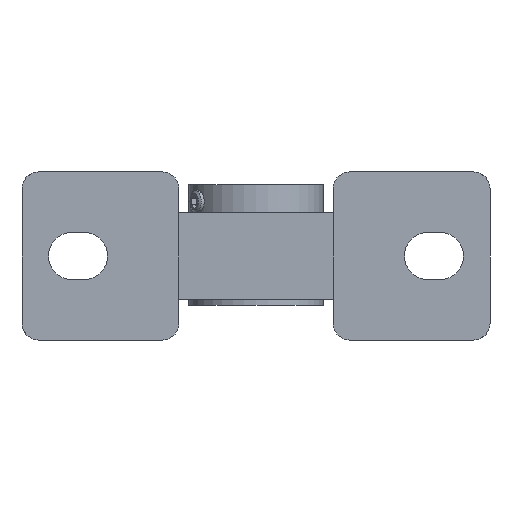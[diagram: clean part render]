
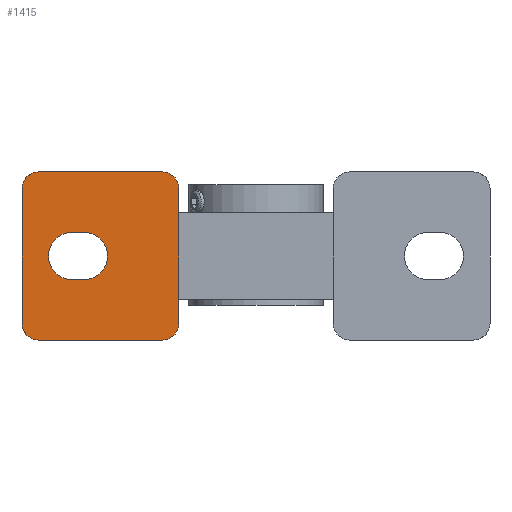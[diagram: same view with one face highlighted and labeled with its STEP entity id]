
A CAD part, front view. The second image highlights one B-rep face of the part: STEP entity #1415.
In plain terms, the highlighted planar face has unit normal (0, -1, 0).
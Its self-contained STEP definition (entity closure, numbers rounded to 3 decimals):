
#179=CARTESIAN_POINT('',(8.855,-56.095,-30.0));
#180=VERTEX_POINT('',#179);
#187=CARTESIAN_POINT('',(-35.145,-56.095,-30.0));
#188=VERTEX_POINT('',#187);
#189=CARTESIAN_POINT('',(8.855,-56.095,-30.0));
#190=DIRECTION('',(-1.0,0.0,0.0));
#191=VECTOR('',#190,44.);
#192=LINE('',#189,#191);
#193=EDGE_CURVE('',#180,#188,#192,.T.);
#668=CARTESIAN_POINT('',(-41.145,-56.095,-24.0));
#669=VERTEX_POINT('',#668);
#670=CARTESIAN_POINT('',(-35.145,-56.095,-24.0));
#671=DIRECTION('',(0.0,1.0,0.0));
#672=DIRECTION('',(-0.707,0.0,-0.707));
#673=AXIS2_PLACEMENT_3D('',#670,#671,#672);
#674=CIRCLE('',#673,6.0);
#675=EDGE_CURVE('',#188,#669,#674,.T.);
#781=CARTESIAN_POINT('',(14.855,-56.095,24.));
#782=VERTEX_POINT('',#781);
#789=CARTESIAN_POINT('',(14.855,-56.095,-24.));
#790=VERTEX_POINT('',#789);
#791=CARTESIAN_POINT('',(14.855,-56.095,24.));
#792=DIRECTION('',(0.0,0.0,-1.0));
#793=VECTOR('',#792,48.);
#794=LINE('',#791,#793);
#795=EDGE_CURVE('',#782,#790,#794,.T.);
#1284=CARTESIAN_POINT('',(-41.145,-56.095,24.0));
#1285=VERTEX_POINT('',#1284);
#1286=CARTESIAN_POINT('',(-41.145,-56.095,-24.0));
#1287=DIRECTION('',(0.0,0.0,1.0));
#1288=VECTOR('',#1287,48.0);
#1289=LINE('',#1286,#1288);
#1290=EDGE_CURVE('',#669,#1285,#1289,.T.);
#1309=CARTESIAN_POINT('',(-35.145,-56.095,30.0));
#1310=VERTEX_POINT('',#1309);
#1311=CARTESIAN_POINT('',(-35.145,-56.095,24.0));
#1312=DIRECTION('',(0.0,1.0,0.0));
#1313=DIRECTION('',(-0.707,0.0,0.707));
#1314=AXIS2_PLACEMENT_3D('',#1311,#1312,#1313);
#1315=CIRCLE('',#1314,6.);
#1316=EDGE_CURVE('',#1285,#1310,#1315,.T.);
#1332=CARTESIAN_POINT('',(8.855,-56.095,-24.));
#1333=DIRECTION('',(0.0,1.0,0.0));
#1334=DIRECTION('',(0.707,0.0,-0.707));
#1335=AXIS2_PLACEMENT_3D('',#1332,#1333,#1334);
#1336=CIRCLE('',#1335,6.0);
#1337=EDGE_CURVE('',#790,#180,#1336,.T.);
#1351=CARTESIAN_POINT('',(42.355,-56.095,0.0));
#1352=DIRECTION('',(0.0,-1.0,0.0));
#1353=DIRECTION('',(0.0,0.0,-1.0));
#1354=AXIS2_PLACEMENT_3D('',#1351,#1352,#1353);
#1355=PLANE('',#1354);
#1356=ORIENTED_EDGE('',*,*,#675,.F.);
#1357=ORIENTED_EDGE('',*,*,#193,.F.);
#1358=ORIENTED_EDGE('',*,*,#1337,.F.);
#1359=ORIENTED_EDGE('',*,*,#795,.F.);
#1360=CARTESIAN_POINT('',(8.855,-56.095,30.0));
#1361=VERTEX_POINT('',#1360);
#1362=CARTESIAN_POINT('',(8.855,-56.095,24.));
#1363=DIRECTION('',(0.0,1.0,0.0));
#1364=DIRECTION('',(0.707,0.0,0.707));
#1365=AXIS2_PLACEMENT_3D('',#1362,#1363,#1364);
#1366=CIRCLE('',#1365,6.);
#1367=EDGE_CURVE('',#1361,#782,#1366,.T.);
#1368=ORIENTED_EDGE('',*,*,#1367,.F.);
#1369=CARTESIAN_POINT('',(-35.145,-56.095,30.0));
#1370=DIRECTION('',(1.0,0.0,0.0));
#1371=VECTOR('',#1370,44.);
#1372=LINE('',#1369,#1371);
#1373=EDGE_CURVE('',#1310,#1361,#1372,.T.);
#1374=ORIENTED_EDGE('',*,*,#1373,.F.);
#1375=ORIENTED_EDGE('',*,*,#1316,.F.);
#1376=ORIENTED_EDGE('',*,*,#1290,.F.);
#1377=EDGE_LOOP('',(#1356,#1357,#1358,#1359,#1368,#1374,#1375,#1376));
#1378=FACE_OUTER_BOUND('',#1377,.T.);
#1379=CARTESIAN_POINT('',(-23.145,-56.095,-8.5));
#1380=VERTEX_POINT('',#1379);
#1381=CARTESIAN_POINT('',(-19.145,-56.095,-8.5));
#1382=VERTEX_POINT('',#1381);
#1383=CARTESIAN_POINT('',(-23.145,-56.095,-8.5));
#1384=DIRECTION('',(1.0,0.0,0.0));
#1385=VECTOR('',#1384,4.);
#1386=LINE('',#1383,#1385);
#1387=EDGE_CURVE('',#1380,#1382,#1386,.T.);
#1388=ORIENTED_EDGE('',*,*,#1387,.F.);
#1389=CARTESIAN_POINT('',(-23.145,-56.095,8.5));
#1390=VERTEX_POINT('',#1389);
#1391=CARTESIAN_POINT('',(-23.145,-56.095,0.0));
#1392=DIRECTION('',(0.0,-1.0,0.0));
#1393=DIRECTION('',(0.0,0.0,1.0));
#1394=AXIS2_PLACEMENT_3D('',#1391,#1392,#1393);
#1395=CIRCLE('',#1394,8.5);
#1396=EDGE_CURVE('',#1390,#1380,#1395,.T.);
#1397=ORIENTED_EDGE('',*,*,#1396,.F.);
#1398=CARTESIAN_POINT('',(-19.145,-56.095,8.5));
#1399=VERTEX_POINT('',#1398);
#1400=CARTESIAN_POINT('',(-19.145,-56.095,8.5));
#1401=DIRECTION('',(-1.0,0.0,0.0));
#1402=VECTOR('',#1401,4.);
#1403=LINE('',#1400,#1402);
#1404=EDGE_CURVE('',#1399,#1390,#1403,.T.);
#1405=ORIENTED_EDGE('',*,*,#1404,.F.);
#1406=CARTESIAN_POINT('',(-19.145,-56.095,0.0));
#1407=DIRECTION('',(0.0,-1.0,0.0));
#1408=DIRECTION('',(0.0,0.0,-1.0));
#1409=AXIS2_PLACEMENT_3D('',#1406,#1407,#1408);
#1410=CIRCLE('',#1409,8.5);
#1411=EDGE_CURVE('',#1382,#1399,#1410,.T.);
#1412=ORIENTED_EDGE('',*,*,#1411,.F.);
#1413=EDGE_LOOP('',(#1388,#1397,#1405,#1412));
#1414=FACE_BOUND('',#1413,.T.);
#1415=ADVANCED_FACE('',(#1378,#1414),#1355,.T.);
